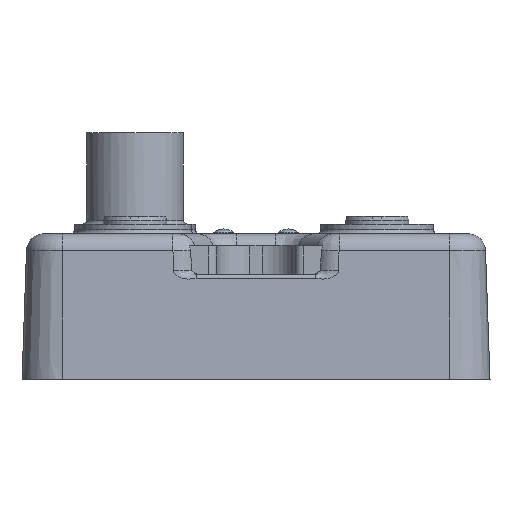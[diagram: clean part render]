
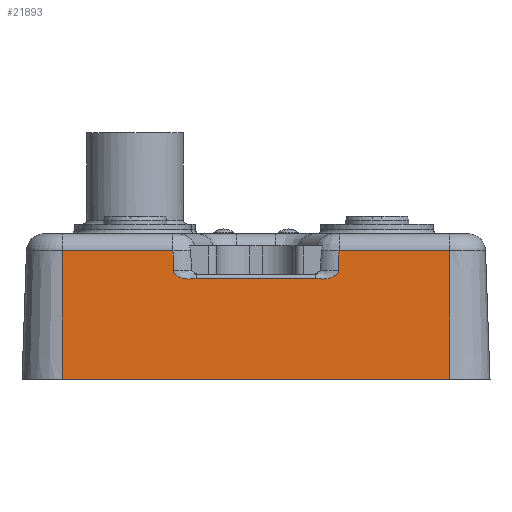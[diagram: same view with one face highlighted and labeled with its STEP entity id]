
A CAD part, front view. The second image highlights one B-rep face of the part: STEP entity #21893.
In plain terms, the highlighted planar face has unit normal (0, -0.999, 0.035).
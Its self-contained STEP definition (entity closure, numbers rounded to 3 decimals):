
#15=DIRECTION('',(1.,0.,0.));
#16=VECTOR('',#15,48.);
#17=CARTESIAN_POINT('',(-24.,-82.5,-8.));
#18=LINE('',#17,#16);
#764=DIRECTION('',(0.,0.035,0.999));
#765=VECTOR('',#764,15.886);
#766=CARTESIAN_POINT('',(24.,-82.5,-8.));
#767=LINE('',#766,#765);
#768=DIRECTION('',(0.024,0.035,0.999));
#769=VECTOR('',#768,2.396);
#770=CARTESIAN_POINT('',(10.231,-82.029,5.483));
#771=LINE('',#770,#769);
#772=DIRECTION('',(1.,0.,0.));
#773=VECTOR('',#772,13.71);
#774=CARTESIAN_POINT('',(10.29,-81.946,7.877));
#775=LINE('',#774,#773);
#776=DIRECTION('',(0.024,-0.035,-0.999));
#777=VECTOR('',#776,2.396);
#778=CARTESIAN_POINT('',(-10.29,-81.946,7.877));
#779=LINE('',#778,#777);
#836=CARTESIAN_POINT('',(10.231,-82.029,5.483));
#837=CARTESIAN_POINT('',(10.231,-82.03,5.46));
#838=CARTESIAN_POINT('',(10.228,-82.032,5.415));
#839=CARTESIAN_POINT('',(10.216,-82.034,5.347));
#840=CARTESIAN_POINT('',(10.197,-82.036,5.281));
#841=CARTESIAN_POINT('',(10.171,-82.039,5.215));
#842=CARTESIAN_POINT('',(10.137,-82.041,5.15));
#843=CARTESIAN_POINT('',(10.095,-82.043,5.085));
#844=CARTESIAN_POINT('',(10.042,-82.045,5.019));
#845=CARTESIAN_POINT('',(9.976,-82.048,4.951));
#846=CARTESIAN_POINT('',(9.894,-82.05,4.881));
#847=CARTESIAN_POINT('',(9.795,-82.053,4.809));
#848=CARTESIAN_POINT('',(9.676,-82.055,4.737));
#849=CARTESIAN_POINT('',(9.536,-82.058,4.664));
#850=CARTESIAN_POINT('',(9.369,-82.06,4.591));
#851=CARTESIAN_POINT('',(9.176,-82.063,4.521));
#852=CARTESIAN_POINT('',(8.97,-82.065,4.462));
#853=CARTESIAN_POINT('',(8.774,-82.066,4.421));
#854=CARTESIAN_POINT('',(8.587,-82.067,4.396));
#855=CARTESIAN_POINT('',(8.409,-82.067,4.386));
#856=CARTESIAN_POINT('',(8.247,-82.067,4.389));
#857=CARTESIAN_POINT('',(8.106,-82.067,4.401));
#858=CARTESIAN_POINT('',(7.983,-82.066,4.418));
#859=CARTESIAN_POINT('',(7.874,-82.066,4.438));
#860=CARTESIAN_POINT('',(7.778,-82.065,4.458));
#861=CARTESIAN_POINT('',(7.693,-82.064,4.478));
#862=CARTESIAN_POINT('',(7.617,-82.064,4.494));
#863=CARTESIAN_POINT('',(7.548,-82.063,4.507));
#864=CARTESIAN_POINT('',(7.486,-82.063,4.516));
#865=CARTESIAN_POINT('',(7.448,-82.063,4.517));
#866=CARTESIAN_POINT('',(7.431,-82.063,4.517));
#873=DIRECTION('',(-1.,0.,0.));
#874=VECTOR('',#873,14.862);
#875=CARTESIAN_POINT('',(7.431,-82.063,4.517));
#876=LINE('',#875,#874);
#1048=CARTESIAN_POINT('',(-7.431,-82.063,
4.517));
#1049=CARTESIAN_POINT('',(-7.448,-82.063,
4.517));
#1050=CARTESIAN_POINT('',(-7.486,-82.063,
4.516));
#1051=CARTESIAN_POINT('',(-7.548,-82.063,
4.507));
#1052=CARTESIAN_POINT('',(-7.617,-82.064,
4.494));
#1053=CARTESIAN_POINT('',(-7.693,-82.064,
4.478));
#1054=CARTESIAN_POINT('',(-7.778,-82.065,
4.459));
#1055=CARTESIAN_POINT('',(-7.874,-82.066,
4.438));
#1056=CARTESIAN_POINT('',(-7.982,-82.066,
4.418));
#1057=CARTESIAN_POINT('',(-8.106,-82.067,
4.401));
#1058=CARTESIAN_POINT('',(-8.246,-82.067,
4.389));
#1059=CARTESIAN_POINT('',(-8.408,-82.067,
4.386));
#1060=CARTESIAN_POINT('',(-8.586,-82.067,
4.396));
#1061=CARTESIAN_POINT('',(-8.773,-82.066,
4.421));
#1062=CARTESIAN_POINT('',(-8.969,-82.065,
4.462));
#1063=CARTESIAN_POINT('',(-9.175,-82.063,
4.52));
#1064=CARTESIAN_POINT('',(-9.369,-82.06,
4.591));
#1065=CARTESIAN_POINT('',(-9.536,-82.058,
4.664));
#1066=CARTESIAN_POINT('',(-9.676,-82.055,
4.737));
#1067=CARTESIAN_POINT('',(-9.795,-82.053,
4.809));
#1068=CARTESIAN_POINT('',(-9.894,-82.05,
4.881));
#1069=CARTESIAN_POINT('',(-9.976,-82.048,
4.951));
#1070=CARTESIAN_POINT('',(-10.042,-82.045,
5.019));
#1071=CARTESIAN_POINT('',(-10.095,-82.043,
5.085));
#1072=CARTESIAN_POINT('',(-10.137,-82.041,
5.15));
#1073=CARTESIAN_POINT('',(-10.171,-82.039,
5.215));
#1074=CARTESIAN_POINT('',(-10.197,-82.036,
5.281));
#1075=CARTESIAN_POINT('',(-10.216,-82.034,
5.348));
#1076=CARTESIAN_POINT('',(-10.228,-82.032,
5.415));
#1077=CARTESIAN_POINT('',(-10.231,-82.03,
5.46));
#1078=CARTESIAN_POINT('',(-10.231,-82.029,
5.483));
#1122=DIRECTION('',(-1.,0.,0.));
#1123=VECTOR('',#1122,13.71);
#1124=CARTESIAN_POINT('',(-10.29,-81.946,
7.877));
#1125=LINE('',#1124,#1123);
#1146=DIRECTION('',(0.,-0.035,-0.999));
#1147=VECTOR('',#1146,15.886);
#1148=CARTESIAN_POINT('',(-24.,-81.946,
7.877));
#1149=LINE('',#1148,#1147);
#17457=CARTESIAN_POINT('',(-24.,-82.5,-8.));
#17458=VERTEX_POINT('',#17457);
#17459=CARTESIAN_POINT('',(24.,-82.5,-8.));
#17460=VERTEX_POINT('',#17459);
#17621=CARTESIAN_POINT('',(24.,-81.946,
7.877));
#17622=VERTEX_POINT('',#17621);
#17623=CARTESIAN_POINT('',(10.231,-82.029,
5.483));
#17624=CARTESIAN_POINT('',(10.29,-81.946,
7.877));
#17625=VERTEX_POINT('',#17623);
#17626=VERTEX_POINT('',#17624);
#17627=CARTESIAN_POINT('',(-24.,-81.946,
7.877));
#17628=VERTEX_POINT('',#17627);
#17629=CARTESIAN_POINT('',(-10.29,-81.946,
7.877));
#17630=VERTEX_POINT('',#17629);
#17631=CARTESIAN_POINT('',(-10.231,-82.029,
5.483));
#17632=VERTEX_POINT('',#17631);
#17633=VERTEX_POINT('',#1048);
#17634=CARTESIAN_POINT('',(7.431,-82.063,
4.517));
#17635=VERTEX_POINT('',#17634);
#21868=CARTESIAN_POINT('',(-31.2,-82.5,-8.));
#21869=DIRECTION('',(0.,-0.999,0.035));
#21870=DIRECTION('',(-1.,0.,0.));
#21871=AXIS2_PLACEMENT_3D('',#21868,#21869,#21870);
#21872=PLANE('',#21871);
#21874=ORIENTED_EDGE('',*,*,#21873,.T.);
#21876=ORIENTED_EDGE('',*,*,#21875,.T.);
#21877=ORIENTED_EDGE('',*,*,#21863,.F.);
#21878=ORIENTED_EDGE('',*,*,#21225,.F.);
#21880=ORIENTED_EDGE('',*,*,#21879,.F.);
#21882=ORIENTED_EDGE('',*,*,#21881,.F.);
#21884=ORIENTED_EDGE('',*,*,#21883,.T.);
#21886=ORIENTED_EDGE('',*,*,#21885,.F.);
#21888=ORIENTED_EDGE('',*,*,#21887,.F.);
#21890=ORIENTED_EDGE('',*,*,#21889,.F.);
#21891=EDGE_LOOP('',(#21874,#21876,#21877,#21878,#21880,#21882,#21884,#21886,
#21888,#21890));
#21892=FACE_OUTER_BOUND('',#21891,.F.);
#21893=ADVANCED_FACE('',(#21892),#21872,.T.);
#867=B_SPLINE_CURVE_WITH_KNOTS('',3,(#836,#837,#838,#839,#840,#841,#842,#843,
#844,#845,#846,#847,#848,#849,#850,#851,#852,#853,#854,#855,#856,#857,#858,#859,
#860,#861,#862,#863,#864,#865,#866),.UNSPECIFIED.,.F.,.F.,(4,1,1,1,1,1,1,1,1,1,
1,1,1,1,1,1,1,1,1,1,1,1,1,1,1,1,1,1,4),(0.,0.036,
0.071,0.107,0.143,0.179,
0.214,0.25,0.286,0.321,0.357,
0.393,0.429,0.464,0.5,0.536,
0.571,0.607,0.643,0.679,
0.714,0.75,0.786,0.821,0.857,
0.893,0.929,0.964,1.),.UNSPECIFIED.);
#1079=B_SPLINE_CURVE_WITH_KNOTS('',3,(#1048,#1049,#1050,#1051,#1052,#1053,#1054,
#1055,#1056,#1057,#1058,#1059,#1060,#1061,#1062,#1063,#1064,#1065,#1066,#1067,
#1068,#1069,#1070,#1071,#1072,#1073,#1074,#1075,#1076,#1077,#1078),
.UNSPECIFIED.,.F.,.F.,(4,1,1,1,1,1,1,1,1,1,1,1,1,1,1,1,1,1,1,1,1,1,1,1,1,1,1,1,
4),(0.,0.036,0.071,0.107,
0.143,0.179,0.214,0.25,0.286,
0.321,0.357,0.393,0.429,
0.464,0.5,0.536,0.571,0.607,
0.643,0.679,0.714,0.75,0.786,
0.821,0.857,0.893,0.929,
0.964,1.),.UNSPECIFIED.);
#21225=EDGE_CURVE('',#17458,#17460,#18,.T.);
#21863=EDGE_CURVE('',#17460,#17622,#767,.T.);
#21873=EDGE_CURVE('',#17625,#17626,#771,.T.);
#21875=EDGE_CURVE('',#17626,#17622,#775,.T.);
#21879=EDGE_CURVE('',#17628,#17458,#1149,.T.);
#21881=EDGE_CURVE('',#17630,#17628,#1125,.T.);
#21883=EDGE_CURVE('',#17630,#17632,#779,.T.);
#21885=EDGE_CURVE('',#17633,#17632,#1079,.T.);
#21887=EDGE_CURVE('',#17635,#17633,#876,.T.);
#21889=EDGE_CURVE('',#17625,#17635,#867,.T.);
